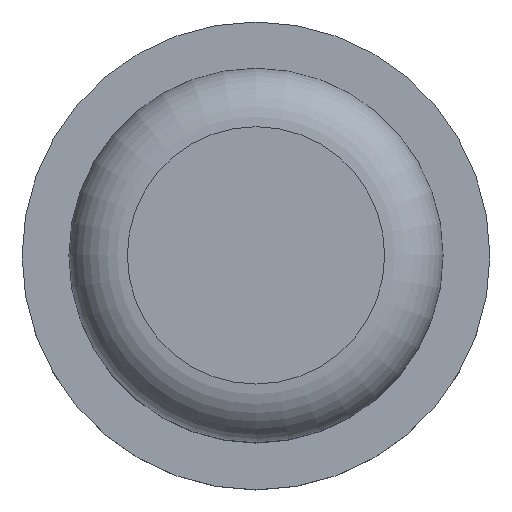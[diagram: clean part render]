
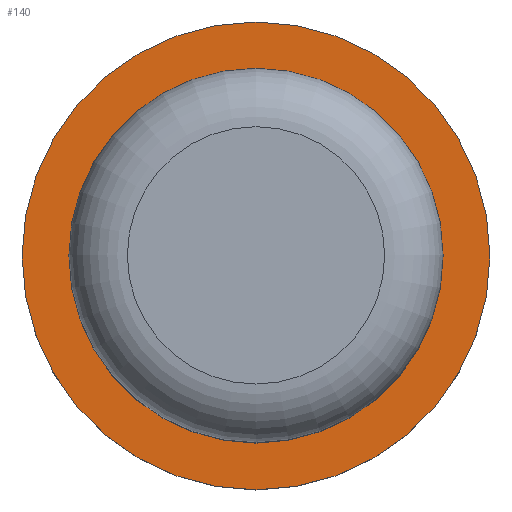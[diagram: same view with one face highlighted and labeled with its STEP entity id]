
A CAD part, top view. The second image highlights one B-rep face of the part: STEP entity #140.
In plain terms, the highlighted planar face has unit normal (0, 0, 1).
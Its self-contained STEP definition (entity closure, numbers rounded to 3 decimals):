
#24 = VERTEX_POINT('',#25);
#25 = CARTESIAN_POINT('',(4.,0.,7.45));
#32 = CYLINDRICAL_SURFACE('',#33,4.);
#33 = AXIS2_PLACEMENT_3D('',#34,#35,#36);
#34 = CARTESIAN_POINT('',(0.,0.,6.25));
#35 = DIRECTION('',(-0.,-0.,-1.));
#36 = DIRECTION('',(1.,0.,0.));
#51 = EDGE_CURVE('',#24,#24,#52,.T.);
#52 = SURFACE_CURVE('',#53,(#58,#65),.PCURVE_S1.);
#53 = CIRCLE('',#54,4.);
#54 = AXIS2_PLACEMENT_3D('',#55,#56,#57);
#55 = CARTESIAN_POINT('',(0.,0.,7.45));
#56 = DIRECTION('',(0.,0.,1.));
#57 = DIRECTION('',(1.,0.,0.));
#58 = PCURVE('',#32,#59);
#59 = DEFINITIONAL_REPRESENTATION('',(#60),#64);
#60 = LINE('',#61,#62);
#61 = CARTESIAN_POINT('',(-0.,-1.2));
#62 = VECTOR('',#63,1.);
#63 = DIRECTION('',(-1.,0.));
#64 = ( GEOMETRIC_REPRESENTATION_CONTEXT(2) 
PARAMETRIC_REPRESENTATION_CONTEXT() REPRESENTATION_CONTEXT('2D SPACE',''
  ) );
#65 = PCURVE('',#66,#71);
#66 = PLANE('',#67);
#67 = AXIS2_PLACEMENT_3D('',#68,#69,#70);
#68 = CARTESIAN_POINT('',(0.,0.,7.45));
#69 = DIRECTION('',(0.,0.,1.));
#70 = DIRECTION('',(1.,0.,-0.));
#71 = DEFINITIONAL_REPRESENTATION('',(#72),#76);
#72 = CIRCLE('',#73,4.);
#73 = AXIS2_PLACEMENT_2D('',#74,#75);
#74 = CARTESIAN_POINT('',(0.,0.));
#75 = DIRECTION('',(1.,0.));
#76 = ( GEOMETRIC_REPRESENTATION_CONTEXT(2) 
PARAMETRIC_REPRESENTATION_CONTEXT() REPRESENTATION_CONTEXT('2D SPACE',''
  ) );
#140 = ADVANCED_FACE('',(#141,#144),#66,.T.);
#141 = FACE_BOUND('',#142,.T.);
#142 = EDGE_LOOP('',(#143));
#143 = ORIENTED_EDGE('',*,*,#51,.T.);
#144 = FACE_BOUND('',#145,.T.);
#145 = EDGE_LOOP('',(#146));
#146 = ORIENTED_EDGE('',*,*,#147,.F.);
#147 = EDGE_CURVE('',#148,#148,#150,.T.);
#148 = VERTEX_POINT('',#149);
#149 = CARTESIAN_POINT('',(3.2,0.,7.45));
#150 = SURFACE_CURVE('',#151,(#156,#163),.PCURVE_S1.);
#151 = CIRCLE('',#152,3.2);
#152 = AXIS2_PLACEMENT_3D('',#153,#154,#155);
#153 = CARTESIAN_POINT('',(0.,0.,7.45));
#154 = DIRECTION('',(0.,0.,1.));
#155 = DIRECTION('',(1.,0.,0.));
#156 = PCURVE('',#66,#157);
#157 = DEFINITIONAL_REPRESENTATION('',(#158),#162);
#158 = CIRCLE('',#159,3.2);
#159 = AXIS2_PLACEMENT_2D('',#160,#161);
#160 = CARTESIAN_POINT('',(0.,0.));
#161 = DIRECTION('',(1.,0.));
#162 = ( GEOMETRIC_REPRESENTATION_CONTEXT(2) 
PARAMETRIC_REPRESENTATION_CONTEXT() REPRESENTATION_CONTEXT('2D SPACE',''
  ) );
#163 = PCURVE('',#164,#169);
#164 = CYLINDRICAL_SURFACE('',#165,3.2);
#165 = AXIS2_PLACEMENT_3D('',#166,#167,#168);
#166 = CARTESIAN_POINT('',(0.,0.,7.45));
#167 = DIRECTION('',(-0.,-0.,-1.));
#168 = DIRECTION('',(1.,0.,0.));
#169 = DEFINITIONAL_REPRESENTATION('',(#170),#174);
#170 = LINE('',#171,#172);
#171 = CARTESIAN_POINT('',(-0.,0.));
#172 = VECTOR('',#173,1.);
#173 = DIRECTION('',(-1.,0.));
#174 = ( GEOMETRIC_REPRESENTATION_CONTEXT(2) 
PARAMETRIC_REPRESENTATION_CONTEXT() REPRESENTATION_CONTEXT('2D SPACE',''
  ) );
